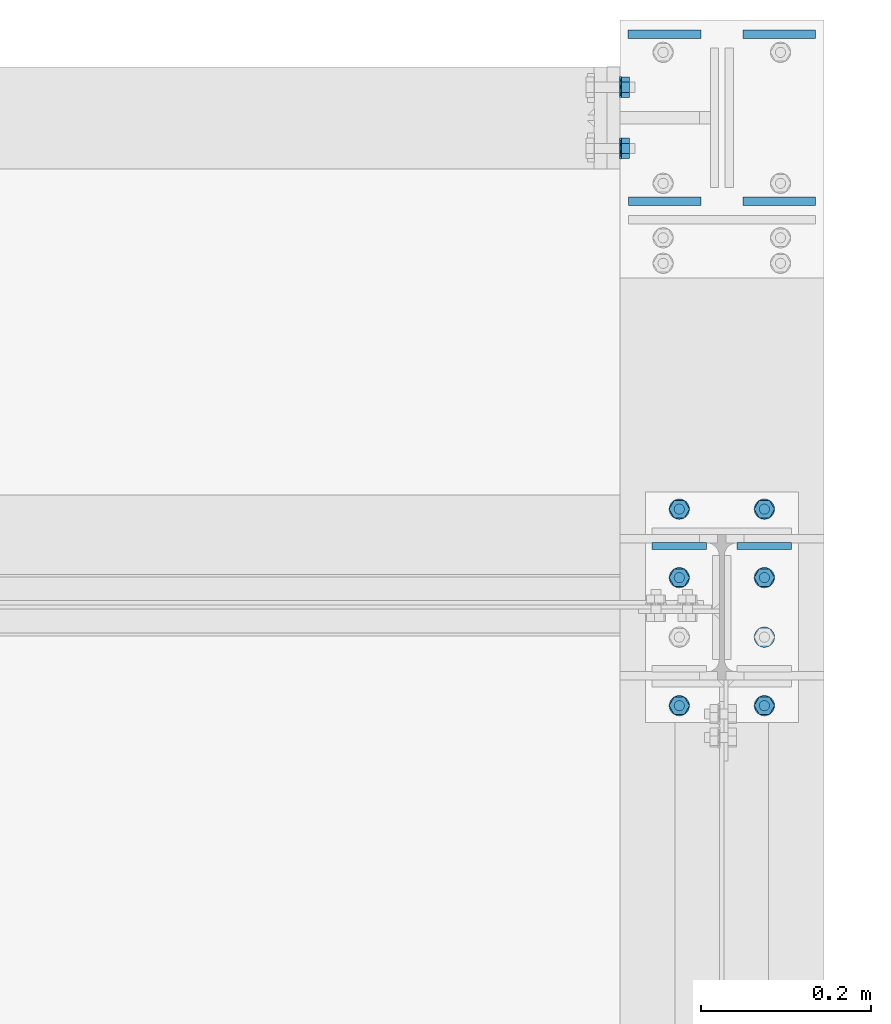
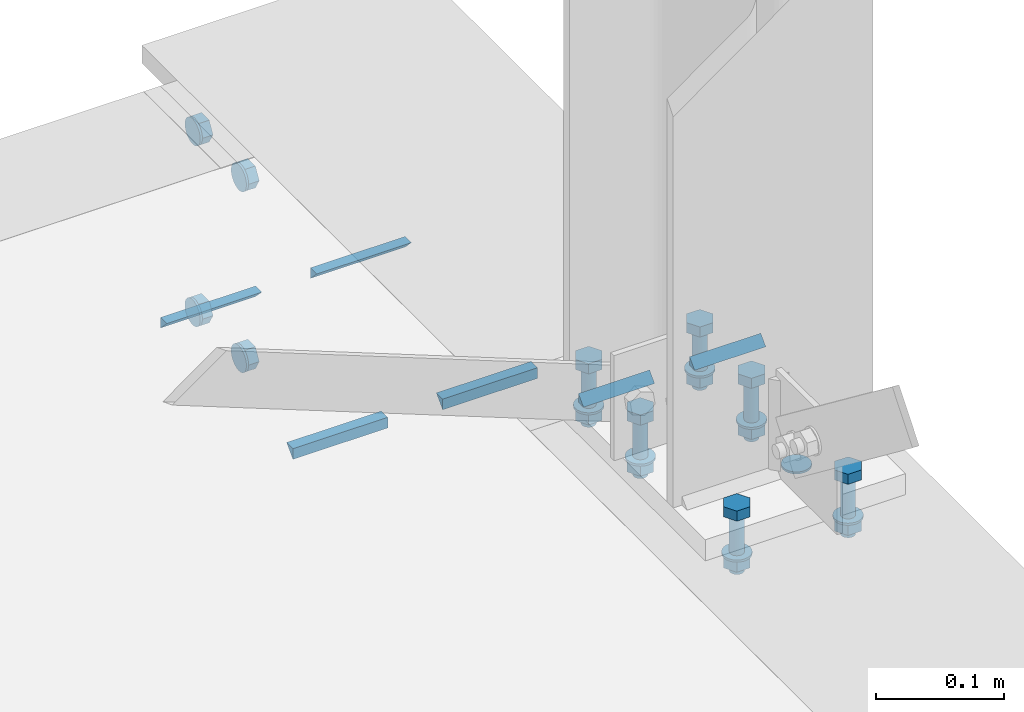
# One storey, part 64 of 66: 33 mechanical fasteners, 12 fasteners.
"""IFC4 building model written with IfcOpenShell, lengths in metres."""

from ifc_helpers import new_model, si_unit, frame, origin_with_axes, place, context, project, spatial, polyline, outline, extrude, type_object, element, save


model = new_model("IFC4")

# Units and contexts
model_context = context("Model", 3, precision=1e-05, world=origin_with_axes())
ifc_project = project(units=[si_unit("LENGTHUNIT", "METRE"), si_unit("AREAUNIT", "SQUARE_METRE"), si_unit("VOLUMEUNIT", "CUBIC_METRE"), si_unit("MASSUNIT", "GRAM", prefix="KILO"), si_unit("TIMEUNIT", "SECOND"), si_unit("PLANEANGLEUNIT", "RADIAN"), si_unit("SOLIDANGLEUNIT", "STERADIAN"), si_unit("THERMODYNAMICTEMPERATUREUNIT", "DEGREE_CELSIUS")], contexts=[model_context])

# Site, building, storey
placement_1 = place(None, origin_with_axes())
site = spatial("IfcSite", under=ifc_project, at=placement_1, Name="Italia", CompositionType="ELEMENT")
building = spatial("IfcBuilding", under=site, at=placement_1, Name="Uffici", CompositionType="ELEMENT")
storey_placement = place(None, frame((0.0, 0.0, 3.299999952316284), z_axis=(0.0, 0.0, 1.0), x_axis=(1.0, 0.0, 0.0)))
storey = spatial("IfcBuildingStorey", under=building, at=storey_placement, Name="Storey 1", CompositionType="ELEMENT", Elevation=3.299999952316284)

# Mechanical fasteners
mechanical_fastener_type_1 = type_object("IfcMechanicalFastenerType", Name="Collegamenti -005_-004 -015_-014 0115_0114", PredefinedType="BOLT")
placement_2 = place(placement_1, origin_with_axes())
mechanical_fastener_1_placement = place(placement_2, origin_with_axes())
element("IfcMechanicalFastener", 1, at=mechanical_fastener_1_placement, inside=storey, type_object=mechanical_fastener_type_1, Name="Collegamenti -005_-004 -015_-014 0115_0114", NominalDiameter=0.0119997, context=model_context, shape_type="SweptSolid", body=[
    extrude(outline(polyline([(0.0, 0.0), (-0.0120001, 0.0), (-0.0180001, 0.0103924), (-0.0120001, 0.0207846), (0.0, 0.0207846), (0.00599957, 0.0103924), (0.0, 0.0)])), frame((13.8616, 5.42, 3.08361), z_axis=(-1.0, 0.0, 0.0), x_axis=(0.0, -1.0, 0.0)), (0.0, 0.0, 1.0), 0.00959969),
])
mechanical_fastener_type_2 = type_object("IfcMechanicalFastenerType", Name="Collegamenti -005_-004 -015_-014 0115_0114", PredefinedType="BOLT")
mechanical_fastener_2_placement = place(placement_2, origin_with_axes())
element("IfcMechanicalFastener", 2, at=mechanical_fastener_2_placement, inside=storey, type_object=mechanical_fastener_type_2, Name="Collegamenti -005_-004 -015_-014 0115_0114", NominalDiameter=0.024, context=model_context, shape_type="SweptSolid", body=[
    extrude(outline(polyline([(0.0, 0.0), (-0.000409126, -0.00310588), (-0.00160789, -0.00600004), (-0.00351477, -0.00848532), (-0.00600004, -0.0103922), (-0.00889444, -0.0115912), (-0.0120001, -0.0120001), (-0.0151057, -0.0115912), (-0.0180001, -0.0103922), (-0.0204854, -0.00848532), (-0.0223923, -0.00600004), (-0.023591, -0.00310588), (-0.0240002, 0.0), (-0.023591, 0.00310588), (-0.0223923, 0.00600004), (-0.0204854, 0.00848532), (-0.0180001, 0.0103922), (-0.0151057, 0.0115912), (-0.0120001, 0.0120001), (-0.00889444, 0.0115912), (-0.00600004, 0.0103922), (-0.00351477, 0.00848532), (-0.00160789, 0.00600004), (-0.000409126, 0.00310588), (0.0, 0.0)])), frame((13.852, 5.414, 3.094), z_axis=(-1.0, 0.0, 0.0), x_axis=(0.0, -1.0, 0.0)), (0.0, 0.0, 1.0), 0.00199986),
])
mechanical_fastener_type_3 = type_object("IfcMechanicalFastenerType", Name="Collegamenti -005_-004 -015_-014 0115_0114", PredefinedType="BOLT")
mechanical_fastener_3_placement = place(placement_2, origin_with_axes())
element("IfcMechanicalFastener", 3, at=mechanical_fastener_3_placement, inside=storey, type_object=mechanical_fastener_type_3, Name="Collegamenti -005_-004 -015_-014 0115_0114", NominalDiameter=0.0119997, context=model_context, shape_type="SweptSolid", body=[
    extrude(outline(polyline([(0.0, 0.0), (-0.0120001, 0.0), (-0.0179996, 0.0103924), (-0.0120001, 0.0207846), (0.0, 0.0207846), (0.00600004, 0.0103924), (0.0, 0.0)])), frame((13.8616, 5.348, 3.08361), z_axis=(-1.0, 0.0, 0.0), x_axis=(0.0, -1.0, 0.0)), (0.0, 0.0, 1.0), 0.00959969),
])
mechanical_fastener_type_4 = type_object("IfcMechanicalFastenerType", Name="Collegamenti -005_-004 -015_-014 0115_0114", PredefinedType="BOLT")
mechanical_fastener_4_placement = place(placement_2, origin_with_axes())
element("IfcMechanicalFastener", 4, at=mechanical_fastener_4_placement, inside=storey, type_object=mechanical_fastener_type_4, Name="Collegamenti -005_-004 -015_-014 0115_0114", NominalDiameter=0.024, context=model_context, shape_type="SweptSolid", body=[
    extrude(outline(polyline([(0.0, 0.0), (-0.000409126, -0.00310588), (-0.00160789, -0.00600004), (-0.00351477, -0.00848532), (-0.00600004, -0.0103922), (-0.00889444, -0.0115912), (-0.0120001, -0.0120001), (-0.0151057, -0.0115912), (-0.0180001, -0.0103922), (-0.0204854, -0.00848532), (-0.0223923, -0.00600004), (-0.023591, -0.00310588), (-0.0240002, 0.0), (-0.023591, 0.00310588), (-0.0223923, 0.00600004), (-0.0204854, 0.00848532), (-0.0180001, 0.0103922), (-0.0151057, 0.0115912), (-0.0120001, 0.0120001), (-0.00889444, 0.0115912), (-0.00600004, 0.0103922), (-0.00351477, 0.00848532), (-0.00160789, 0.00600004), (-0.000409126, 0.00310588), (0.0, 0.0)])), frame((13.852, 5.342, 3.094), z_axis=(-1.0, 0.0, 0.0), x_axis=(0.0, -1.0, 0.0)), (0.0, 0.0, 1.0), 0.00199986),
])
mechanical_fastener_type_5 = type_object("IfcMechanicalFastenerType", Name="Collegamenti -005_-004 -015_-014 0115_0114", PredefinedType="BOLT")
mechanical_fastener_5_placement = place(placement_2, origin_with_axes())
element("IfcMechanicalFastener", 5, at=mechanical_fastener_5_placement, inside=storey, type_object=mechanical_fastener_type_5, Name="Collegamenti -005_-004 -015_-014 0115_0114", NominalDiameter=0.0119997, context=model_context, shape_type="SweptSolid", body=[
    extrude(outline(polyline([(0.0, 0.0), (-0.0120001, 0.0), (-0.0180001, 0.0103922), (-0.0120001, 0.0207846), (0.0, 0.0207846), (0.00599957, 0.0103922), (0.0, 0.0)])), frame((13.8616, 5.42, 3.25561), z_axis=(-1.0, 0.0, 0.0), x_axis=(0.0, -1.0, 0.0)), (0.0, 0.0, 1.0), 0.00959969),
])
mechanical_fastener_type_6 = type_object("IfcMechanicalFastenerType", Name="Collegamenti -005_-004 -015_-014 0115_0114", PredefinedType="BOLT")
mechanical_fastener_6_placement = place(placement_2, origin_with_axes())
element("IfcMechanicalFastener", 6, at=mechanical_fastener_6_placement, inside=storey, type_object=mechanical_fastener_type_6, Name="Collegamenti -005_-004 -015_-014 0115_0114", NominalDiameter=0.024, context=model_context, shape_type="SweptSolid", body=[
    extrude(outline(polyline([(0.0, 0.0), (-0.000409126, -0.00310588), (-0.00160789, -0.00600004), (-0.00351477, -0.00848532), (-0.00600004, -0.0103922), (-0.00889444, -0.0115912), (-0.0120001, -0.0120001), (-0.0151057, -0.0115912), (-0.0180001, -0.0103922), (-0.0204854, -0.00848532), (-0.0223923, -0.00600004), (-0.023591, -0.00310588), (-0.0240002, 0.0), (-0.023591, 0.00310588), (-0.0223923, 0.00600004), (-0.0204854, 0.00848532), (-0.0180001, 0.0103922), (-0.0151057, 0.0115912), (-0.0120001, 0.0120001), (-0.00889444, 0.0115912), (-0.00600004, 0.0103922), (-0.00351477, 0.00848532), (-0.00160789, 0.00600004), (-0.000409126, 0.00310588), (0.0, 0.0)])), frame((13.852, 5.414, 3.266), z_axis=(-1.0, 0.0, 0.0), x_axis=(0.0, -1.0, 0.0)), (0.0, 0.0, 1.0), 0.00199986),
])
mechanical_fastener_type_7 = type_object("IfcMechanicalFastenerType", Name="Collegamenti -005_-004 -015_-014 0115_0114", PredefinedType="BOLT")
mechanical_fastener_7_placement = place(placement_2, origin_with_axes())
element("IfcMechanicalFastener", 7, at=mechanical_fastener_7_placement, inside=storey, type_object=mechanical_fastener_type_7, Name="Collegamenti -005_-004 -015_-014 0115_0114", NominalDiameter=0.0119997, context=model_context, shape_type="SweptSolid", body=[
    extrude(outline(polyline([(0.0, 0.0), (-0.0120001, 0.0), (-0.0179996, 0.0103922), (-0.0120001, 0.0207846), (0.0, 0.0207846), (0.00600004, 0.0103922), (0.0, 0.0)])), frame((13.8616, 5.348, 3.25561), z_axis=(-1.0, 0.0, 0.0), x_axis=(0.0, -1.0, 0.0)), (0.0, 0.0, 1.0), 0.00959969),
])
mechanical_fastener_type_8 = type_object("IfcMechanicalFastenerType", Name="Collegamenti -005_-004 -015_-014 0115_0114", PredefinedType="BOLT")
mechanical_fastener_8_placement = place(placement_2, origin_with_axes())
element("IfcMechanicalFastener", 8, at=mechanical_fastener_8_placement, inside=storey, type_object=mechanical_fastener_type_8, Name="Collegamenti -005_-004 -015_-014 0115_0114", NominalDiameter=0.024, context=model_context, shape_type="SweptSolid", body=[
    extrude(outline(polyline([(0.0, 0.0), (-0.000409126, -0.00310588), (-0.00160789, -0.00600004), (-0.00351477, -0.00848532), (-0.00600004, -0.0103922), (-0.00889444, -0.0115912), (-0.0120001, -0.0120001), (-0.0151057, -0.0115912), (-0.0180001, -0.0103922), (-0.0204854, -0.00848532), (-0.0223923, -0.00600004), (-0.023591, -0.00310588), (-0.0240002, 0.0), (-0.023591, 0.00310588), (-0.0223923, 0.00600004), (-0.0204854, 0.00848532), (-0.0180001, 0.0103922), (-0.0151057, 0.0115912), (-0.0120001, 0.0120001), (-0.00889444, 0.0115912), (-0.00600004, 0.0103922), (-0.00351477, 0.00848532), (-0.00160789, 0.00600004), (-0.000409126, 0.00310588), (0.0, 0.0)])), frame((13.852, 5.342, 3.266), z_axis=(-1.0, 0.0, 0.0), x_axis=(0.0, -1.0, 0.0)), (0.0, 0.0, 1.0), 0.00199986),
])

# Fasteners
fastener_type_1 = type_object("IfcFastenerType", Name="Collegamento 0110_0210", PredefinedType="WELD")
fastener_1_placement = place(placement_2, origin_with_axes())
element("IfcFastener", 9, at=fastener_1_placement, inside=storey, type_object=fastener_type_1, Name="Collegamento 0110_0210", context=model_context, shape_type="SweptSolid", body=[
    extrude(outline(polyline([(0.0, 0.0), (0.00792837, 0.00817347), (0.00792837, 0.0), (0.0, 0.0)])), frame((13.988, 4.88262, 3.31995), z_axis=(1.0, 0.0, 0.0), x_axis=(0.0, 1.0, 0.0)), (0.0, 0.0, 1.0), 0.0641003),
])
fastener_type_2 = type_object("IfcFastenerType", Name="Collegamento 0110_0210", PredefinedType="WELD")
fastener_2_placement = place(placement_2, origin_with_axes())
element("IfcFastener", 10, at=fastener_2_placement, inside=storey, type_object=fastener_type_2, Name="Collegamento 0110_0210", context=model_context, shape_type="SweptSolid", body=[
    extrude(outline(polyline([(0.0, 0.0), (0.00792837, 0.00817347), (0.00792837, 0.0), (0.0, 0.0)])), frame((13.888, 4.88262, 3.31995), z_axis=(1.0, 0.0, 0.0), x_axis=(0.0, 1.0, 0.0)), (0.0, 0.0, 1.0), 0.0641003),
])
fastener_type_3 = type_object("IfcFastenerType", Name="Collegamento 0110_0210", PredefinedType="WELD")
fastener_3_placement = place(placement_2, origin_with_axes())
element("IfcFastener", 11, at=fastener_3_placement, inside=storey, type_object=fastener_type_3, Name="Collegamento 0110_0210", context=model_context, shape_type="SweptSolid", body=[
    extrude(outline(polyline([(0.0, 0.0), (0.00792837, 0.00817347), (0.00792837, 0.0), (0.0, 0.0)])), frame((13.988, 4.88262, 3.31995), z_axis=(1.0, 0.0, 0.0), x_axis=(0.0, 1.0, 0.0)), (0.0, 0.0, 1.0), 0.0641003),
])
fastener_type_4 = type_object("IfcFastenerType", Name="Collegamento 0110_0210", PredefinedType="WELD")
fastener_4_placement = place(placement_2, origin_with_axes())
element("IfcFastener", 12, at=fastener_4_placement, inside=storey, type_object=fastener_type_4, Name="Collegamento 0110_0210", context=model_context, shape_type="SweptSolid", body=[
    extrude(outline(polyline([(0.0, 0.0), (0.00792837, 0.00817347), (0.00792837, 0.0), (0.0, 0.0)])), frame((13.888, 4.88262, 3.31995), z_axis=(1.0, 0.0, 0.0), x_axis=(0.0, 1.0, 0.0)), (0.0, 0.0, 1.0), 0.0641003),
])

# Mechanical fasteners
mechanical_fastener_type_9 = type_object("IfcMechanicalFastenerType", Name="Collegamento 0110_0210", PredefinedType="BOLT")
mechanical_fastener_9_placement = place(placement_2, origin_with_axes())
element("IfcMechanicalFastener", 13, at=mechanical_fastener_9_placement, inside=storey, type_object=mechanical_fastener_type_9, Name="Collegamento 0110_0210", NominalDiameter=0.0119997, context=model_context, shape_type="SweptSolid", body=[
    extrude(outline(polyline([(0.0, 0.0), (0.0, 0.0120001), (0.0103922, 0.0180006), (0.0207844, 0.0120001), (0.0207844, 0.0), (0.0103922, -0.00599957), (0.0, 0.0)])), frame((13.926, 4.91961, 3.32), z_axis=(0.0, 0.0, 1.0), x_axis=(0.0, 1.0, 0.0)), (0.0, 0.0, 1.0), 0.00959992),
])
mechanical_fastener_type_10 = type_object("IfcMechanicalFastenerType", Name="Collegamento 0110_0210", PredefinedType="BOLT")
mechanical_fastener_10_placement = place(placement_2, origin_with_axes())
element("IfcMechanicalFastener", 14, at=mechanical_fastener_10_placement, inside=storey, type_object=mechanical_fastener_type_10, Name="Collegamento 0110_0210", NominalDiameter=0.012, context=model_context, shape_type="SweptSolid", body=[
    extrude(outline(polyline([(0.0, 0.0), (-0.000204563, -0.00155258), (-0.000803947, -0.00300026), (-0.00175762, -0.0042429), (-0.00300026, -0.00519657), (-0.00444698, -0.00579548), (-0.00600004, -0.00599957), (-0.0075531, -0.00579548), (-0.00899982, -0.00519657), (-0.0102425, -0.0042429), (-0.0111961, -0.00300026), (-0.0117955, -0.00155258), (-0.0120001, 0.0), (-0.0117955, 0.00155258), (-0.0111961, 0.00300026), (-0.0102425, 0.0042429), (-0.00899982, 0.00519657), (-0.0075531, 0.00579548), (-0.00600004, 0.00599957), (-0.00444698, 0.00579548), (-0.00300026, 0.00519657), (-0.00175762, 0.0042429), (-0.000803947, 0.00300026), (-0.000204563, 0.00155258), (0.0, 0.0)])), frame((13.92, 4.936, 3.265), z_axis=(0.0, 0.0, 1.0), x_axis=(0.0, 1.0, 0.0)), (0.0, 0.0, 1.0), 0.0550001),
])
mechanical_fastener_type_11 = type_object("IfcMechanicalFastenerType", Name="Collegamento 0110_0210", PredefinedType="BOLT")
mechanical_fastener_11_placement = place(placement_2, origin_with_axes())
element("IfcMechanicalFastener", 15, at=mechanical_fastener_11_placement, inside=storey, type_object=mechanical_fastener_type_11, Name="Collegamento 0110_0210", NominalDiameter=0.0119997, context=model_context, shape_type="SweptSolid", body=[
    extrude(outline(polyline([(0.0, 0.0), (0.0, 0.0120001), (0.0103922, 0.0180006), (0.0207844, 0.0120001), (0.0207844, 0.0), (0.0103922, -0.00599957), (0.0, 0.0)])), frame((13.926, 4.91961, 3.2714), z_axis=(0.0, 0.0, 1.0), x_axis=(0.0, 1.0, 0.0)), (0.0, 0.0, 1.0), 0.00959992),
])
mechanical_fastener_type_12 = type_object("IfcMechanicalFastenerType", Name="Collegamento 0110_0210", PredefinedType="BOLT")
mechanical_fastener_12_placement = place(placement_2, origin_with_axes())
element("IfcMechanicalFastener", 16, at=mechanical_fastener_12_placement, inside=storey, type_object=mechanical_fastener_type_12, Name="Collegamento 0110_0210", NominalDiameter=0.024, context=model_context, shape_type="SweptSolid", body=[
    extrude(outline(polyline([(0.0, 0.0), (-0.000409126, -0.00310612), (-0.00160789, -0.00599957), (-0.00351477, -0.00848484), (-0.00600004, -0.0103922), (-0.00889444, -0.011591), (-0.0120001, -0.0120001), (-0.0151057, -0.011591), (-0.0180001, -0.0103922), (-0.0204854, -0.00848484), (-0.0223923, -0.00599957), (-0.023591, -0.00310612), (-0.0240002, 0.0), (-0.023591, 0.00310612), (-0.0223923, 0.00599957), (-0.0204854, 0.00848484), (-0.0180001, 0.0103922), (-0.0151057, 0.011591), (-0.0120001, 0.0120001), (-0.00889444, 0.011591), (-0.00600004, 0.0103922), (-0.00351477, 0.00848484), (-0.00160789, 0.00599957), (-0.000409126, 0.00310612), (0.0, 0.0)])), frame((13.92, 4.942, 3.281), z_axis=(0.0, 0.0, 1.0), x_axis=(0.0, 1.0, 0.0)), (0.0, 0.0, 1.0), 0.00200009),
])
mechanical_fastener_type_13 = type_object("IfcMechanicalFastenerType", Name="Collegamento 0110_0210", PredefinedType="BOLT")
mechanical_fastener_13_placement = place(placement_2, origin_with_axes())
element("IfcMechanicalFastener", 17, at=mechanical_fastener_13_placement, inside=storey, type_object=mechanical_fastener_type_13, Name="Collegamento 0110_0210", NominalDiameter=0.0119997, context=model_context, shape_type="SweptSolid", body=[
    extrude(outline(polyline([(0.0, 0.0), (0.0, 0.0120001), (0.0103922, 0.0179996), (0.0207844, 0.0120001), (0.0207844, 0.0), (0.0103922, -0.00600052), (0.0, 0.0)])), frame((14.026, 4.91961, 3.32), z_axis=(0.0, 0.0, 1.0), x_axis=(0.0, 1.0, 0.0)), (0.0, 0.0, 1.0), 0.00959992),
])
mechanical_fastener_type_14 = type_object("IfcMechanicalFastenerType", Name="Collegamento 0110_0210", PredefinedType="BOLT")
mechanical_fastener_14_placement = place(placement_2, origin_with_axes())
element("IfcMechanicalFastener", 18, at=mechanical_fastener_14_placement, inside=storey, type_object=mechanical_fastener_type_14, Name="Collegamento 0110_0210", NominalDiameter=0.012, context=model_context, shape_type="SweptSolid", body=[
    extrude(outline(polyline([(0.0, 0.0), (-0.000204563, -0.00155258), (-0.000803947, -0.00300026), (-0.00175762, -0.0042429), (-0.00300026, -0.00519657), (-0.00444698, -0.00579548), (-0.00600004, -0.00599957), (-0.0075531, -0.00579548), (-0.00899982, -0.00519657), (-0.0102425, -0.0042429), (-0.0111961, -0.00300026), (-0.0117955, -0.00155258), (-0.0120001, 0.0), (-0.0117955, 0.00155258), (-0.0111961, 0.00300026), (-0.0102425, 0.0042429), (-0.00899982, 0.00519657), (-0.0075531, 0.00579548), (-0.00600004, 0.00599957), (-0.00444698, 0.00579548), (-0.00300026, 0.00519657), (-0.00175762, 0.0042429), (-0.000803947, 0.00300026), (-0.000204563, 0.00155258), (0.0, 0.0)])), frame((14.02, 4.936, 3.265), z_axis=(0.0, 0.0, 1.0), x_axis=(0.0, 1.0, 0.0)), (0.0, 0.0, 1.0), 0.0550001),
])
mechanical_fastener_type_15 = type_object("IfcMechanicalFastenerType", Name="Collegamento 0110_0210", PredefinedType="BOLT")
mechanical_fastener_15_placement = place(placement_2, origin_with_axes())
element("IfcMechanicalFastener", 19, at=mechanical_fastener_15_placement, inside=storey, type_object=mechanical_fastener_type_15, Name="Collegamento 0110_0210", NominalDiameter=0.0119997, context=model_context, shape_type="SweptSolid", body=[
    extrude(outline(polyline([(0.0, 0.0), (0.0, 0.0120001), (0.0103922, 0.0179996), (0.0207844, 0.0120001), (0.0207844, 0.0), (0.0103922, -0.00600052), (0.0, 0.0)])), frame((14.026, 4.91961, 3.2714), z_axis=(0.0, 0.0, 1.0), x_axis=(0.0, 1.0, 0.0)), (0.0, 0.0, 1.0), 0.00959992),
])
mechanical_fastener_type_16 = type_object("IfcMechanicalFastenerType", Name="Collegamento 0110_0210", PredefinedType="BOLT")
mechanical_fastener_16_placement = place(placement_2, origin_with_axes())
element("IfcMechanicalFastener", 20, at=mechanical_fastener_16_placement, inside=storey, type_object=mechanical_fastener_type_16, Name="Collegamento 0110_0210", NominalDiameter=0.024, context=model_context, shape_type="SweptSolid", body=[
    extrude(outline(polyline([(0.0, 0.0), (-0.000409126, -0.00310612), (-0.00160789, -0.00599957), (-0.00351477, -0.00848484), (-0.00600004, -0.0103922), (-0.00889444, -0.011591), (-0.0120001, -0.0120001), (-0.0151057, -0.011591), (-0.0180001, -0.0103922), (-0.0204854, -0.00848484), (-0.0223923, -0.00599957), (-0.023591, -0.00310612), (-0.0240002, 0.0), (-0.023591, 0.00310612), (-0.0223923, 0.00599957), (-0.0204854, 0.00848484), (-0.0180001, 0.0103922), (-0.0151057, 0.011591), (-0.0120001, 0.0120001), (-0.00889444, 0.011591), (-0.00600004, 0.0103922), (-0.00351477, 0.00848484), (-0.00160789, 0.00599957), (-0.000409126, 0.00310612), (0.0, 0.0)])), frame((14.02, 4.942, 3.281), z_axis=(0.0, 0.0, 1.0), x_axis=(0.0, 1.0, 0.0)), (0.0, 0.0, 1.0), 0.00200009),
])
mechanical_fastener_type_17 = type_object("IfcMechanicalFastenerType", Name="Collegamento 0110_0210", PredefinedType="BOLT")
mechanical_fastener_17_placement = place(placement_2, origin_with_axes())
element("IfcMechanicalFastener", 21, at=mechanical_fastener_17_placement, inside=storey, type_object=mechanical_fastener_type_17, Name="Collegamento 0110_0210", NominalDiameter=0.024, context=model_context, shape_type="SweptSolid", body=[
    extrude(outline(polyline([(0.0, 0.0), (-0.000409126, -0.00310612), (-0.00160789, -0.00599957), (-0.00351477, -0.00848484), (-0.00600004, -0.0103922), (-0.00889444, -0.011591), (-0.0120001, -0.0120001), (-0.0151057, -0.011591), (-0.0180001, -0.0103922), (-0.0204854, -0.00848484), (-0.0223923, -0.00599957), (-0.023591, -0.00310612), (-0.0240002, 0.0), (-0.023591, 0.00310612), (-0.0223923, 0.00599957), (-0.0204854, 0.00848484), (-0.0180001, 0.0103922), (-0.0151057, 0.011591), (-0.0120001, 0.0120001), (-0.00889444, 0.011591), (-0.00600004, 0.0103922), (-0.00351477, 0.00848484), (-0.00160789, 0.00599957), (-0.000409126, 0.00310612), (0.0, 0.0)])), frame((14.02, 4.7915, 3.281), z_axis=(0.0, 0.0, 1.0), x_axis=(0.0, 1.0, 0.0)), (0.0, 0.0, 1.0), 0.00200009),
])
mechanical_fastener_type_18 = type_object("IfcMechanicalFastenerType", Name="Collegamento 0110_0210", PredefinedType="BOLT")
mechanical_fastener_18_placement = place(placement_2, origin_with_axes())
element("IfcMechanicalFastener", 22, at=mechanical_fastener_18_placement, inside=storey, type_object=mechanical_fastener_type_18, Name="Collegamento 0110_0210", NominalDiameter=0.0119997, context=model_context, shape_type="SweptSolid", body=[
    extrude(outline(polyline([(0.0, 0.0), (0.0, 0.0120001), (0.0103922, 0.0180006), (0.0207849, 0.0120001), (0.0207849, 0.0), (0.0103922, -0.00599957), (0.0, 0.0)])), frame((13.926, 4.83911, 3.32), z_axis=(0.0, 0.0, 1.0), x_axis=(0.0, 1.0, 0.0)), (0.0, 0.0, 1.0), 0.00959992),
])
mechanical_fastener_type_19 = type_object("IfcMechanicalFastenerType", Name="Collegamento 0110_0210", PredefinedType="BOLT")
mechanical_fastener_19_placement = place(placement_2, origin_with_axes())
element("IfcMechanicalFastener", 23, at=mechanical_fastener_19_placement, inside=storey, type_object=mechanical_fastener_type_19, Name="Collegamento 0110_0210", NominalDiameter=0.012, context=model_context, shape_type="SweptSolid", body=[
    extrude(outline(polyline([(0.0, 0.0), (-0.000204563, -0.00155258), (-0.000803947, -0.00300026), (-0.00175762, -0.0042429), (-0.00300026, -0.00519657), (-0.00444698, -0.00579548), (-0.00600004, -0.00599957), (-0.0075531, -0.00579548), (-0.00899982, -0.00519657), (-0.0102425, -0.0042429), (-0.0111961, -0.00300026), (-0.0117955, -0.00155258), (-0.0120001, 0.0), (-0.0117955, 0.00155258), (-0.0111961, 0.00300026), (-0.0102425, 0.0042429), (-0.00899982, 0.00519657), (-0.0075531, 0.00579548), (-0.00600004, 0.00599957), (-0.00444698, 0.00579548), (-0.00300026, 0.00519657), (-0.00175762, 0.0042429), (-0.000803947, 0.00300026), (-0.000204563, 0.00155258), (0.0, 0.0)])), frame((13.92, 4.8555, 3.265), z_axis=(0.0, 0.0, 1.0), x_axis=(0.0, 1.0, 0.0)), (0.0, 0.0, 1.0), 0.0550001),
])
mechanical_fastener_type_20 = type_object("IfcMechanicalFastenerType", Name="Collegamento 0110_0210", PredefinedType="BOLT")
mechanical_fastener_20_placement = place(placement_2, origin_with_axes())
element("IfcMechanicalFastener", 24, at=mechanical_fastener_20_placement, inside=storey, type_object=mechanical_fastener_type_20, Name="Collegamento 0110_0210", NominalDiameter=0.0119997, context=model_context, shape_type="SweptSolid", body=[
    extrude(outline(polyline([(0.0, 0.0), (0.0, 0.0120001), (0.0103922, 0.0180006), (0.0207849, 0.0120001), (0.0207849, 0.0), (0.0103922, -0.00599957), (0.0, 0.0)])), frame((13.926, 4.83911, 3.2714), z_axis=(0.0, 0.0, 1.0), x_axis=(0.0, 1.0, 0.0)), (0.0, 0.0, 1.0), 0.00959992),
])
mechanical_fastener_type_21 = type_object("IfcMechanicalFastenerType", Name="Collegamento 0110_0210", PredefinedType="BOLT")
mechanical_fastener_21_placement = place(placement_2, origin_with_axes())
element("IfcMechanicalFastener", 25, at=mechanical_fastener_21_placement, inside=storey, type_object=mechanical_fastener_type_21, Name="Collegamento 0110_0210", NominalDiameter=0.024, context=model_context, shape_type="SweptSolid", body=[
    extrude(outline(polyline([(0.0, 0.0), (-0.000409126, -0.00310612), (-0.00160789, -0.00599957), (-0.00351477, -0.00848484), (-0.00600004, -0.0103922), (-0.00889444, -0.011591), (-0.0120001, -0.0120001), (-0.0151057, -0.011591), (-0.0180001, -0.0103922), (-0.0204854, -0.00848484), (-0.0223923, -0.00599957), (-0.023591, -0.00310612), (-0.0240002, 0.0), (-0.023591, 0.00310612), (-0.0223923, 0.00599957), (-0.0204854, 0.00848484), (-0.0180001, 0.0103922), (-0.0151057, 0.011591), (-0.0120001, 0.0120001), (-0.00889444, 0.011591), (-0.00600004, 0.0103922), (-0.00351477, 0.00848484), (-0.00160789, 0.00599957), (-0.000409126, 0.00310612), (0.0, 0.0)])), frame((13.92, 4.8615, 3.281), z_axis=(0.0, 0.0, 1.0), x_axis=(0.0, 1.0, 0.0)), (0.0, 0.0, 1.0), 0.00200009),
])
mechanical_fastener_type_22 = type_object("IfcMechanicalFastenerType", Name="Collegamento 0110_0210", PredefinedType="BOLT")
mechanical_fastener_22_placement = place(placement_2, origin_with_axes())
element("IfcMechanicalFastener", 26, at=mechanical_fastener_22_placement, inside=storey, type_object=mechanical_fastener_type_22, Name="Collegamento 0110_0210", NominalDiameter=0.0119997, context=model_context, shape_type="SweptSolid", body=[
    extrude(outline(polyline([(0.0, 0.0), (0.0, 0.0120001), (0.0103922, 0.0179996), (0.0207849, 0.0120001), (0.0207849, 0.0), (0.0103922, -0.00600052), (0.0, 0.0)])), frame((14.026, 4.83911, 3.32), z_axis=(0.0, 0.0, 1.0), x_axis=(0.0, 1.0, 0.0)), (0.0, 0.0, 1.0), 0.00959992),
])
mechanical_fastener_type_23 = type_object("IfcMechanicalFastenerType", Name="Collegamento 0110_0210", PredefinedType="BOLT")
mechanical_fastener_23_placement = place(placement_2, origin_with_axes())
element("IfcMechanicalFastener", 27, at=mechanical_fastener_23_placement, inside=storey, type_object=mechanical_fastener_type_23, Name="Collegamento 0110_0210", NominalDiameter=0.012, context=model_context, shape_type="SweptSolid", body=[
    extrude(outline(polyline([(0.0, 0.0), (-0.000204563, -0.00155258), (-0.000803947, -0.00300026), (-0.00175762, -0.0042429), (-0.00300026, -0.00519657), (-0.00444698, -0.00579548), (-0.00600004, -0.00599957), (-0.0075531, -0.00579548), (-0.00899982, -0.00519657), (-0.0102425, -0.0042429), (-0.0111961, -0.00300026), (-0.0117955, -0.00155258), (-0.0120001, 0.0), (-0.0117955, 0.00155258), (-0.0111961, 0.00300026), (-0.0102425, 0.0042429), (-0.00899982, 0.00519657), (-0.0075531, 0.00579548), (-0.00600004, 0.00599957), (-0.00444698, 0.00579548), (-0.00300026, 0.00519657), (-0.00175762, 0.0042429), (-0.000803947, 0.00300026), (-0.000204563, 0.00155258), (0.0, 0.0)])), frame((14.02, 4.8555, 3.265), z_axis=(0.0, 0.0, 1.0), x_axis=(0.0, 1.0, 0.0)), (0.0, 0.0, 1.0), 0.0550001),
])
mechanical_fastener_type_24 = type_object("IfcMechanicalFastenerType", Name="Collegamento 0110_0210", PredefinedType="BOLT")
mechanical_fastener_24_placement = place(placement_2, origin_with_axes())
element("IfcMechanicalFastener", 28, at=mechanical_fastener_24_placement, inside=storey, type_object=mechanical_fastener_type_24, Name="Collegamento 0110_0210", NominalDiameter=0.0119997, context=model_context, shape_type="SweptSolid", body=[
    extrude(outline(polyline([(0.0, 0.0), (0.0, 0.0120001), (0.0103922, 0.0179996), (0.0207849, 0.0120001), (0.0207849, 0.0), (0.0103922, -0.00600052), (0.0, 0.0)])), frame((14.026, 4.83911, 3.2714), z_axis=(0.0, 0.0, 1.0), x_axis=(0.0, 1.0, 0.0)), (0.0, 0.0, 1.0), 0.00959992),
])
mechanical_fastener_type_25 = type_object("IfcMechanicalFastenerType", Name="Collegamento 0110_0210", PredefinedType="BOLT")
mechanical_fastener_25_placement = place(placement_2, origin_with_axes())
element("IfcMechanicalFastener", 29, at=mechanical_fastener_25_placement, inside=storey, type_object=mechanical_fastener_type_25, Name="Collegamento 0110_0210", NominalDiameter=0.024, context=model_context, shape_type="SweptSolid", body=[
    extrude(outline(polyline([(0.0, 0.0), (-0.000409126, -0.00310612), (-0.00160789, -0.00599957), (-0.00351477, -0.00848484), (-0.00600004, -0.0103922), (-0.00889444, -0.011591), (-0.0120001, -0.0120001), (-0.0151057, -0.011591), (-0.0180001, -0.0103922), (-0.0204854, -0.00848484), (-0.0223923, -0.00599957), (-0.023591, -0.00310612), (-0.0240002, 0.0), (-0.023591, 0.00310612), (-0.0223923, 0.00599957), (-0.0204854, 0.00848484), (-0.0180001, 0.0103922), (-0.0151057, 0.011591), (-0.0120001, 0.0120001), (-0.00889444, 0.011591), (-0.00600004, 0.0103922), (-0.00351477, 0.00848484), (-0.00160789, 0.00599957), (-0.000409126, 0.00310612), (0.0, 0.0)])), frame((14.02, 4.8615, 3.281), z_axis=(0.0, 0.0, 1.0), x_axis=(0.0, 1.0, 0.0)), (0.0, 0.0, 1.0), 0.00200009),
])
mechanical_fastener_type_26 = type_object("IfcMechanicalFastenerType", Name="Collegamento 0110_0210", PredefinedType="BOLT")
mechanical_fastener_26_placement = place(placement_2, origin_with_axes())
element("IfcMechanicalFastener", 30, at=mechanical_fastener_26_placement, inside=storey, type_object=mechanical_fastener_type_26, Name="Collegamento 0110_0210", NominalDiameter=0.0119997, context=model_context, shape_type="SweptSolid", body=[
    extrude(outline(polyline([(0.0, 0.0), (0.0, 0.0120001), (0.0103922, 0.0180006), (0.0207844, 0.0120001), (0.0207844, 0.0), (0.0103922, -0.00599957), (0.0, 0.0)])), frame((13.926, 4.68861, 3.32), z_axis=(0.0, 0.0, 1.0), x_axis=(0.0, 1.0, 0.0)), (0.0, 0.0, 1.0), 0.00959992),
])
mechanical_fastener_type_27 = type_object("IfcMechanicalFastenerType", Name="Collegamento 0110_0210", PredefinedType="BOLT")
mechanical_fastener_27_placement = place(placement_2, origin_with_axes())
element("IfcMechanicalFastener", 31, at=mechanical_fastener_27_placement, inside=storey, type_object=mechanical_fastener_type_27, Name="Collegamento 0110_0210", NominalDiameter=0.012, context=model_context, shape_type="SweptSolid", body=[
    extrude(outline(polyline([(0.0, 0.0), (-0.000204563, -0.00155258), (-0.000803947, -0.00300026), (-0.00175762, -0.0042429), (-0.00300026, -0.00519657), (-0.00444698, -0.00579548), (-0.00600004, -0.00599957), (-0.0075531, -0.00579548), (-0.00899982, -0.00519657), (-0.0102425, -0.0042429), (-0.0111961, -0.00300026), (-0.0117955, -0.00155258), (-0.0120001, 0.0), (-0.0117955, 0.00155258), (-0.0111961, 0.00300026), (-0.0102425, 0.0042429), (-0.00899982, 0.00519657), (-0.0075531, 0.00579548), (-0.00600004, 0.00599957), (-0.00444698, 0.00579548), (-0.00300026, 0.00519657), (-0.00175762, 0.0042429), (-0.000803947, 0.00300026), (-0.000204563, 0.00155258), (0.0, 0.0)])), frame((13.92, 4.705, 3.265), z_axis=(0.0, 0.0, 1.0), x_axis=(0.0, 1.0, 0.0)), (0.0, 0.0, 1.0), 0.0550001),
])
mechanical_fastener_type_28 = type_object("IfcMechanicalFastenerType", Name="Collegamento 0110_0210", PredefinedType="BOLT")
mechanical_fastener_28_placement = place(placement_2, origin_with_axes())
element("IfcMechanicalFastener", 32, at=mechanical_fastener_28_placement, inside=storey, type_object=mechanical_fastener_type_28, Name="Collegamento 0110_0210", NominalDiameter=0.0119997, context=model_context, shape_type="SweptSolid", body=[
    extrude(outline(polyline([(0.0, 0.0), (0.0, 0.0120001), (0.0103922, 0.0180006), (0.0207844, 0.0120001), (0.0207844, 0.0), (0.0103922, -0.00599957), (0.0, 0.0)])), frame((13.926, 4.68861, 3.2714), z_axis=(0.0, 0.0, 1.0), x_axis=(0.0, 1.0, 0.0)), (0.0, 0.0, 1.0), 0.00959992),
])
mechanical_fastener_type_29 = type_object("IfcMechanicalFastenerType", Name="Collegamento 0110_0210", PredefinedType="BOLT")
mechanical_fastener_29_placement = place(placement_2, origin_with_axes())
element("IfcMechanicalFastener", 33, at=mechanical_fastener_29_placement, inside=storey, type_object=mechanical_fastener_type_29, Name="Collegamento 0110_0210", NominalDiameter=0.024, context=model_context, shape_type="SweptSolid", body=[
    extrude(outline(polyline([(0.0, 0.0), (-0.000409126, -0.00310612), (-0.00160789, -0.00599957), (-0.00351477, -0.00848484), (-0.00600004, -0.0103922), (-0.00889444, -0.011591), (-0.0120001, -0.0120001), (-0.0151057, -0.011591), (-0.0180001, -0.0103922), (-0.0204854, -0.00848484), (-0.0223923, -0.00599957), (-0.023591, -0.00310612), (-0.0240002, 0.0), (-0.023591, 0.00310612), (-0.0223923, 0.00599957), (-0.0204854, 0.00848484), (-0.0180001, 0.0103922), (-0.0151057, 0.011591), (-0.0120001, 0.0120001), (-0.00889444, 0.011591), (-0.00600004, 0.0103922), (-0.00351477, 0.00848484), (-0.00160789, 0.00599957), (-0.000409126, 0.00310612), (0.0, 0.0)])), frame((13.92, 4.711, 3.281), z_axis=(0.0, 0.0, 1.0), x_axis=(0.0, 1.0, 0.0)), (0.0, 0.0, 1.0), 0.00200009),
])
mechanical_fastener_type_30 = type_object("IfcMechanicalFastenerType", Name="Collegamento 0110_0210", PredefinedType="BOLT")
mechanical_fastener_30_placement = place(placement_2, origin_with_axes())
element("IfcMechanicalFastener", 34, at=mechanical_fastener_30_placement, inside=storey, type_object=mechanical_fastener_type_30, Name="Collegamento 0110_0210", NominalDiameter=0.0119997, context=model_context, shape_type="SweptSolid", body=[
    extrude(outline(polyline([(0.0, 0.0), (0.0, 0.0120001), (0.0103922, 0.0179996), (0.0207844, 0.0120001), (0.0207844, 0.0), (0.0103922, -0.00600052), (0.0, 0.0)])), frame((14.026, 4.68861, 3.32), z_axis=(0.0, 0.0, 1.0), x_axis=(0.0, 1.0, 0.0)), (0.0, 0.0, 1.0), 0.00959992),
])
mechanical_fastener_type_31 = type_object("IfcMechanicalFastenerType", Name="Collegamento 0110_0210", PredefinedType="BOLT")
mechanical_fastener_31_placement = place(placement_2, origin_with_axes())
element("IfcMechanicalFastener", 35, at=mechanical_fastener_31_placement, inside=storey, type_object=mechanical_fastener_type_31, Name="Collegamento 0110_0210", NominalDiameter=0.012, context=model_context, shape_type="SweptSolid", body=[
    extrude(outline(polyline([(0.0, 0.0), (-0.000204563, -0.00155258), (-0.000803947, -0.00300026), (-0.00175762, -0.0042429), (-0.00300026, -0.00519657), (-0.00444698, -0.00579548), (-0.00600004, -0.00599957), (-0.0075531, -0.00579548), (-0.00899982, -0.00519657), (-0.0102425, -0.0042429), (-0.0111961, -0.00300026), (-0.0117955, -0.00155258), (-0.0120001, 0.0), (-0.0117955, 0.00155258), (-0.0111961, 0.00300026), (-0.0102425, 0.0042429), (-0.00899982, 0.00519657), (-0.0075531, 0.00579548), (-0.00600004, 0.00599957), (-0.00444698, 0.00579548), (-0.00300026, 0.00519657), (-0.00175762, 0.0042429), (-0.000803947, 0.00300026), (-0.000204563, 0.00155258), (0.0, 0.0)])), frame((14.02, 4.705, 3.265), z_axis=(0.0, 0.0, 1.0), x_axis=(0.0, 1.0, 0.0)), (0.0, 0.0, 1.0), 0.0550001),
])
mechanical_fastener_type_32 = type_object("IfcMechanicalFastenerType", Name="Collegamento 0110_0210", PredefinedType="BOLT")
mechanical_fastener_32_placement = place(placement_2, origin_with_axes())
element("IfcMechanicalFastener", 36, at=mechanical_fastener_32_placement, inside=storey, type_object=mechanical_fastener_type_32, Name="Collegamento 0110_0210", NominalDiameter=0.0119997, context=model_context, shape_type="SweptSolid", body=[
    extrude(outline(polyline([(0.0, 0.0), (0.0, 0.0120001), (0.0103922, 0.0179996), (0.0207844, 0.0120001), (0.0207844, 0.0), (0.0103922, -0.00600052), (0.0, 0.0)])), frame((14.026, 4.68861, 3.2714), z_axis=(0.0, 0.0, 1.0), x_axis=(0.0, 1.0, 0.0)), (0.0, 0.0, 1.0), 0.00959992),
])
mechanical_fastener_type_33 = type_object("IfcMechanicalFastenerType", Name="Collegamento 0110_0210", PredefinedType="BOLT")
mechanical_fastener_33_placement = place(placement_2, origin_with_axes())
element("IfcMechanicalFastener", 37, at=mechanical_fastener_33_placement, inside=storey, type_object=mechanical_fastener_type_33, Name="Collegamento 0110_0210", NominalDiameter=0.024, context=model_context, shape_type="SweptSolid", body=[
    extrude(outline(polyline([(0.0, 0.0), (-0.000409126, -0.00310612), (-0.00160789, -0.00599957), (-0.00351477, -0.00848484), (-0.00600004, -0.0103922), (-0.00889444, -0.011591), (-0.0120001, -0.0120001), (-0.0151057, -0.011591), (-0.0180001, -0.0103922), (-0.0204854, -0.00848484), (-0.0223923, -0.00599957), (-0.023591, -0.00310612), (-0.0240002, 0.0), (-0.023591, 0.00310612), (-0.0223923, 0.00599957), (-0.0204854, 0.00848484), (-0.0180001, 0.0103922), (-0.0151057, 0.011591), (-0.0120001, 0.0120001), (-0.00889444, 0.011591), (-0.00600004, 0.0103922), (-0.00351477, 0.00848484), (-0.00160789, 0.00599957), (-0.000409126, 0.00310612), (0.0, 0.0)])), frame((14.02, 4.711, 3.281), z_axis=(0.0, 0.0, 1.0), x_axis=(0.0, 1.0, 0.0)), (0.0, 0.0, 1.0), 0.00200009),
])

# Fasteners
fastener_type_5 = type_object("IfcFastenerType", Name="Collegamenti 0111_0011 0112_0012 0113_0013 0114_0014 0115_0015", PredefinedType="WELD")
fastener_5_placement = place(placement_2, origin_with_axes())
element("IfcFastener", 38, at=fastener_5_placement, inside=storey, type_object=fastener_type_5, Name="Collegamenti 0111_0011 0112_0012 0113_0013 0114_0014 0115_0015", context=model_context, shape_type="SweptSolid", body=[
    extrude(outline(polyline([(0.0, 0.0), (-0.00986814, -0.0101733), (-0.00986814, 0.0), (0.0, 0.0)])), frame((14.0801, 5.48318, 3.04505), z_axis=(-1.0, 0.0, 0.0), x_axis=(0.0, -1.0, 0.0)), (0.0, 0.0, 1.0), 0.08535),
])
fastener_type_6 = type_object("IfcFastenerType", Name="Collegamenti 0111_0011 0112_0012 0113_0013 0114_0014 0115_0015", PredefinedType="WELD")
fastener_6_placement = place(placement_2, origin_with_axes())
element("IfcFastener", 39, at=fastener_6_placement, inside=storey, type_object=fastener_type_6, Name="Collegamenti 0111_0011 0112_0012 0113_0013 0114_0014 0115_0015", context=model_context, shape_type="SweptSolid", body=[
    extrude(outline(polyline([(0.0, 0.0), (-0.00986814, -0.0101733), (-0.00986814, 0.0), (0.0, 0.0)])), frame((13.9947, 5.29682, 3.04505), z_axis=(1.0, 0.0, 0.0), x_axis=(0.0, 1.0, 0.0)), (0.0, 0.0, 1.0), 0.08535),
])
fastener_type_7 = type_object("IfcFastenerType", Name="Collegamenti 0111_0011 0112_0012 0113_0013 0114_0014 0115_0015", PredefinedType="WELD")
fastener_7_placement = place(placement_2, origin_with_axes())
element("IfcFastener", 40, at=fastener_7_placement, inside=storey, type_object=fastener_type_7, Name="Collegamenti 0111_0011 0112_0012 0113_0013 0114_0014 0115_0015", context=model_context, shape_type="SweptSolid", body=[
    extrude(outline(polyline([(0.0, 0.0), (-0.00986814, -0.0101733), (-0.00986814, 0.0), (0.0, 0.0)])), frame((13.86, 5.29682, 3.04505), z_axis=(1.0, 0.0, 0.0), x_axis=(0.0, 1.0, 0.0)), (0.0, 0.0, 1.0), 0.08535),
])
fastener_type_8 = type_object("IfcFastenerType", Name="Collegamenti 0111_0011 0112_0012 0113_0013 0114_0014 0115_0015", PredefinedType="WELD")
fastener_8_placement = place(placement_2, origin_with_axes())
element("IfcFastener", 41, at=fastener_8_placement, inside=storey, type_object=fastener_type_8, Name="Collegamenti 0111_0011 0112_0012 0113_0013 0114_0014 0115_0015", context=model_context, shape_type="SweptSolid", body=[
    extrude(outline(polyline([(0.0, 0.0), (-0.00986814, -0.0101733), (-0.00986814, 0.0), (0.0, 0.0)])), frame((13.9453, 5.48318, 3.04505), z_axis=(-1.0, 0.0, 0.0), x_axis=(0.0, -1.0, 0.0)), (0.0, 0.0, 1.0), 0.08535),
])
fastener_type_9 = type_object("IfcFastenerType", Name="Collegamenti 0111_0011 0112_0012 0113_0013 0114_0014 0115_0015", PredefinedType="WELD")
fastener_9_placement = place(placement_2, origin_with_axes())
element("IfcFastener", 42, at=fastener_9_placement, inside=storey, type_object=fastener_type_9, Name="Collegamenti 0111_0011 0112_0012 0113_0013 0114_0014 0115_0015", context=model_context, shape_type="SweptSolid", body=[
    extrude(outline(polyline([(0.0, 0.0), (-0.00986814, -0.0101733), (-0.00986814, 0.0), (0.0, 0.0)])), frame((14.0801, 5.48318, 3.04505), z_axis=(-1.0, 0.0, 0.0), x_axis=(0.0, -1.0, 0.0)), (0.0, 0.0, 1.0), 0.08535),
])
fastener_type_10 = type_object("IfcFastenerType", Name="Collegamenti 0111_0011 0112_0012 0113_0013 0114_0014 0115_0015", PredefinedType="WELD")
fastener_10_placement = place(placement_2, origin_with_axes())
element("IfcFastener", 43, at=fastener_10_placement, inside=storey, type_object=fastener_type_10, Name="Collegamenti 0111_0011 0112_0012 0113_0013 0114_0014 0115_0015", context=model_context, shape_type="SweptSolid", body=[
    extrude(outline(polyline([(0.0, 0.0), (-0.00986814, -0.0101733), (-0.00986814, 0.0), (0.0, 0.0)])), frame((13.9947, 5.29682, 3.04505), z_axis=(1.0, 0.0, 0.0), x_axis=(0.0, 1.0, 0.0)), (0.0, 0.0, 1.0), 0.08535),
])
fastener_type_11 = type_object("IfcFastenerType", Name="Collegamenti 0111_0011 0112_0012 0113_0013 0114_0014 0115_0015", PredefinedType="WELD")
fastener_11_placement = place(placement_2, origin_with_axes())
element("IfcFastener", 44, at=fastener_11_placement, inside=storey, type_object=fastener_type_11, Name="Collegamenti 0111_0011 0112_0012 0113_0013 0114_0014 0115_0015", context=model_context, shape_type="SweptSolid", body=[
    extrude(outline(polyline([(0.0, 0.0), (-0.00986814, -0.0101733), (-0.00986814, 0.0), (0.0, 0.0)])), frame((13.86, 5.29682, 3.04505), z_axis=(1.0, 0.0, 0.0), x_axis=(0.0, 1.0, 0.0)), (0.0, 0.0, 1.0), 0.08535),
])
fastener_type_12 = type_object("IfcFastenerType", Name="Collegamenti 0111_0011 0112_0012 0113_0013 0114_0014 0115_0015", PredefinedType="WELD")
fastener_12_placement = place(placement_2, origin_with_axes())
element("IfcFastener", 45, at=fastener_12_placement, inside=storey, type_object=fastener_type_12, Name="Collegamenti 0111_0011 0112_0012 0113_0013 0114_0014 0115_0015", context=model_context, shape_type="SweptSolid", body=[
    extrude(outline(polyline([(0.0, 0.0), (-0.00986814, -0.0101733), (-0.00986814, 0.0), (0.0, 0.0)])), frame((13.9453, 5.48318, 3.04505), z_axis=(-1.0, 0.0, 0.0), x_axis=(0.0, -1.0, 0.0)), (0.0, 0.0, 1.0), 0.08535),
])

save(model, "model.ifc")
